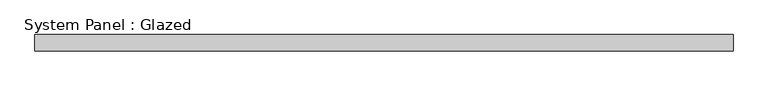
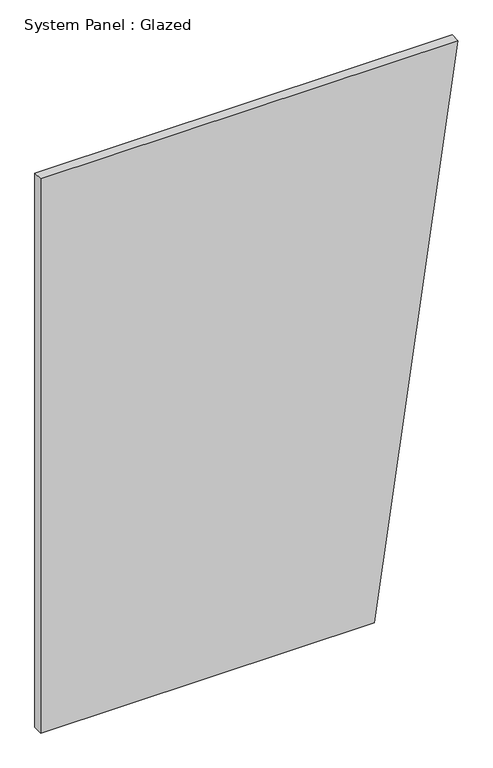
"""IFC4 building model written with IfcOpenShell, lengths in millimetres: plate geometry, System Panel : Glazed."""

import ifcopenshell
import ifcopenshell.guid

model = None  # the IFC model being written
_history = None  # IfcOwnerHistory: only IFC2X3 demands one
_inside = {}  # id of a spatial element -> (the spatial element, [elements in it])
_under = {}  # id of a project, library or spatial element -> (it, [spatial elements below it])
_declared = {}  # id of a project -> (the project, [libraries it declares])
_typed = {}  # id of a type object -> (the type object, [elements of that type])
_made_of = {}  # id of a material, layer set ... -> (it, [elements and type objects made of it])


def new_model(schema):
    """Start an empty IFC model of exactly this schema.

    Asked for "IFC4X3", IfcOpenShell would pick the latest addendum, in which some entities
    have other attributes; the version numbers below select the first issue.
    IFC2X3 requires an IfcOwnerHistory on every rooted entity: one is made here for all.
    """
    global model, _history
    if schema == "IFC4X3":
        model = ifcopenshell.file(schema_version=(4, 3, 0, 0))
    else:
        model = ifcopenshell.file(schema=schema)
    _inside.clear()
    _under.clear()
    _declared.clear()
    _typed.clear()
    _made_of.clear()
    _history = None
    if model.schema == "IFC2X3":
        org = make("IfcOrganization", Name="unknown")
        user = make(
            "IfcPersonAndOrganization",
            ThePerson=make("IfcPerson", FamilyName="unknown"),
            TheOrganization=org,
        )
        app = make(
            "IfcApplication",
            ApplicationDeveloper=org,
            Version="unknown",
            ApplicationFullName="unknown",
            ApplicationIdentifier="unknown",
        )
        _history = make(
            "IfcOwnerHistory",
            OwningUser=user,
            OwningApplication=app,
            ChangeAction="ADDED",
            CreationDate=0,
        )
    return model


def make(cls, **values):
    """One entity of the class cls with the attributes given. An attribute that is None is left unset."""
    return model.create_entity(
        cls, **{name: value for name, value in values.items() if value is not None}
    )


def rooted(cls, **values):
    """An entity with a GlobalId (a new one), such as an element, a storey or a relation."""
    return make(cls, GlobalId=ifcopenshell.guid.new(), OwnerHistory=_history, **values)


def si_unit(unit_type, name, prefix=None):
    """IfcSIUnit, for example si_unit("LENGTHUNIT", "METRE", prefix="MILLI")."""
    return make("IfcSIUnit", UnitType=unit_type, Prefix=prefix, Name=name)


def assignment(units):
    """IfcUnitAssignment: the units of a project."""
    return None if units is None else make("IfcUnitAssignment", Units=units)


def point(xyz):
    """IfcCartesianPoint."""
    return None if xyz is None else make("IfcCartesianPoint", Coordinates=xyz)


def direction(xyz):
    """IfcDirection."""
    return None if xyz is None else make("IfcDirection", DirectionRatios=xyz)


def frame(location, z_axis=None, x_axis=None):
    """IfcAxis2Placement3D, a coordinate frame: its origin and axes. An axis left out is left unset."""
    return make(
        "IfcAxis2Placement3D",
        Location=point(location),
        Axis=direction(z_axis),
        RefDirection=direction(x_axis),
    )


def origin():
    """The frame at (0, 0, 0) with its axes left unset."""
    return frame((0.0, 0.0, 0.0))


def place(relative_to, where):
    """IfcLocalPlacement: puts the frame where relative to a parent placement (None: the world)."""
    return make(
        "IfcLocalPlacement", PlacementRelTo=relative_to, RelativePlacement=where
    )


def context(
    kind, dimensions, precision=None, world=None, true_north=None, identifier=None
):
    """IfcGeometricRepresentationContext, for example the 3D "Model" context."""
    return make(
        "IfcGeometricRepresentationContext",
        ContextIdentifier=identifier,
        ContextType=kind,
        CoordinateSpaceDimension=dimensions,
        Precision=precision,
        WorldCoordinateSystem=world,
        TrueNorth=true_north,
    )


def project(units=None, contexts=None):
    """IfcProject with its units and contexts."""
    return rooted(
        "IfcProject",
        Name="project",
        RepresentationContexts=contexts,
        UnitsInContext=assignment(units),
    )


def spatial(cls, under=None, at=None, **own):
    """A site, building, storey or space (cls), placed at a placement, below another one or the project."""
    s = rooted(cls, ObjectPlacement=at, **own)
    if under is not None:
        _under.setdefault(under.id(), (under, []))[1].append(s)
    return s


def polyline(points):
    """IfcPolyline through the points."""
    return make("IfcPolyline", Points=[point(p) for p in points])


def outline(outer, holes=None, kind="AREA"):
    """IfcArbitraryClosedProfileDef: a profile drawn as a closed curve; with holes, ...WithVoids."""
    if holes is None:
        return make("IfcArbitraryClosedProfileDef", ProfileType=kind, OuterCurve=outer)
    return make(
        "IfcArbitraryProfileDefWithVoids",
        ProfileType=kind,
        OuterCurve=outer,
        InnerCurves=holes,
    )


def extrude(swept, where, along, depth):
    """IfcExtrudedAreaSolid: the profile swept, set in the frame where, extruded along a direction by depth."""
    return make(
        "IfcExtrudedAreaSolid",
        SweptArea=swept,
        Position=where,
        ExtrudedDirection=direction(along),
        Depth=depth,
    )


def shape(context_of_items, identifier, shape_type, items):
    """IfcShapeRepresentation: the items that make up one representation, for example the "Body"."""
    return make(
        "IfcShapeRepresentation",
        ContextOfItems=context_of_items,
        RepresentationIdentifier=identifier,
        RepresentationType=shape_type,
        Items=items,
    )


def source(mapping_origin, context_of_items, identifier, shape_type, items):
    """IfcRepresentationMap: a shape defined once, which mapped items show again and again."""
    return make(
        "IfcRepresentationMap",
        MappingOrigin=mapping_origin,
        MappedRepresentation=shape(context_of_items, identifier, shape_type, items),
    )


def transform(
    local_origin,
    x_axis=None,
    y_axis=None,
    z_axis=None,
    scale=None,
    scale2=None,
    scale3=None,
    uniform=True,
):
    """IfcCartesianTransformationOperator3D, or its non-uniform kind. x_axis, y_axis, z_axis: its Axis1, 2, 3."""
    if uniform:
        return make(
            "IfcCartesianTransformationOperator3D",
            Axis1=direction(x_axis),
            Axis2=direction(y_axis),
            LocalOrigin=point(local_origin),
            Scale=scale,
            Axis3=direction(z_axis),
        )
    return make(
        "IfcCartesianTransformationOperator3DnonUniform",
        Axis1=direction(x_axis),
        Axis2=direction(y_axis),
        LocalOrigin=point(local_origin),
        Scale=scale,
        Axis3=direction(z_axis),
        Scale2=scale2,
        Scale3=scale3,
    )


def mapped(mapping_source, mapping_target):
    """IfcMappedItem: shows the shape of a source again, moved by a transform."""
    return make(
        "IfcMappedItem", MappingSource=mapping_source, MappingTarget=mapping_target
    )


def made_of(thing, what):
    """Note that an element or type object is made of a material, layer set ...; save() writes the relation."""
    if what is not None:
        _made_of.setdefault(what.id(), (what, []))[1].append(thing)
    return thing


def element(
    cls,
    number,
    at=None,
    inside=None,
    cuts=None,
    type_object=None,
    material=None,
    context=None,
    identifier="Body",
    shape_type=None,
    held_by="IfcProductDefinitionShape",
    body=None,
    shapes=None,
    **own,
):
    """One element of the class cls, such as IfcWall. Its Tag is "e" and its number.

    at: its placement. inside: the storey or other place that contains it. cuts: it is an
    opening in that element (IfcRelVoidsElement). A single representation is given by context,
    identifier, shape_type and body (its items); several are given by shapes. held_by: the class
    of the entity that holds the representations. save() writes the other relations.
    """
    e = rooted(cls, Tag="e%d" % number, ObjectPlacement=at, **own)
    if body is not None:
        shapes = [shape(context, identifier, shape_type, body)]
    if shapes is not None:
        e.Representation = make(held_by, Representations=shapes)
    if inside is not None:
        _inside.setdefault(inside.id(), (inside, []))[1].append(e)
    if cuts is not None:
        rooted(
            "IfcRelVoidsElement", RelatingBuildingElement=cuts, RelatedOpeningElement=e
        )
    if type_object is not None:
        _typed.setdefault(type_object.id(), (type_object, []))[1].append(e)
    return made_of(e, material)


def aggregate(whole, parts):
    """IfcRelAggregates: a whole, such as a stair, and the parts it consists of."""
    return rooted("IfcRelAggregates", RelatingObject=whole, RelatedObjects=parts)


def save(model, path):
    """Write the relations noted so far, then the file.

    IfcRelAggregates (storeys below a building ...), IfcRelContainedInSpatialStructure (elements
    in a storey), IfcRelDefinesByType, IfcRelAssociatesMaterial and IfcRelDeclares: one each for
    every whole, place, type object, material and project.
    """
    for whole, parts in _under.values():
        aggregate(whole, parts)
    for where, things in _inside.values():
        rooted(
            "IfcRelContainedInSpatialStructure",
            RelatedElements=things,
            RelatingStructure=where,
        )
    for kind, things in _typed.values():
        rooted("IfcRelDefinesByType", RelatedObjects=things, RelatingType=kind)
    for what, things in _made_of.values():
        rooted("IfcRelAssociatesMaterial", RelatedObjects=things, RelatingMaterial=what)
    for by, libraries in _declared.values():
        rooted("IfcRelDeclares", RelatingContext=by, RelatedDefinitions=libraries)
    model.write(path)


def system_panel_glazed_7921cbcf(model_context):
    return source(origin(), model_context, "Body", "SweptSolid", [
        extrude(outline(polyline([(0.0, -542.6133877), (0.0, 325.5680326), (1524.0, 542.6133877), (1524.0, -542.6133877), (0.0, -542.6133877)])), frame((0.0, 19.05, 0.0), z_axis=(0.0, 1.0, 0.0), x_axis=(0.0, 0.0, 1.0)), (0.0, 0.0, 1.0), 25.4),
    ])


if __name__ == "__main__":
    model = new_model("IFC4")
    model_context = context("Model", 3, world=origin())
    ifc_project = project(units=[si_unit("LENGTHUNIT", "METRE", prefix="MILLI")], contexts=[model_context])
    site = spatial("IfcSite", under=ifc_project)
    building = spatial("IfcBuilding", under=site)
    placement = place(None, origin())
    system_panel_glazed_shape = system_panel_glazed_7921cbcf(model_context)
    element("IfcPlate", 1, ObjectType="System Panel : Glazed", at=placement, inside=building, context=model_context, shape_type="MappedRepresentation", body=[
        mapped(system_panel_glazed_shape, transform((0.0, 0.0, 0.0), x_axis=(1.0, 0.0, 0.0), y_axis=(0.0, 1.0, 0.0), z_axis=(0.0, 0.0, 1.0))),
    ])
    save(model, "model.ifc")
